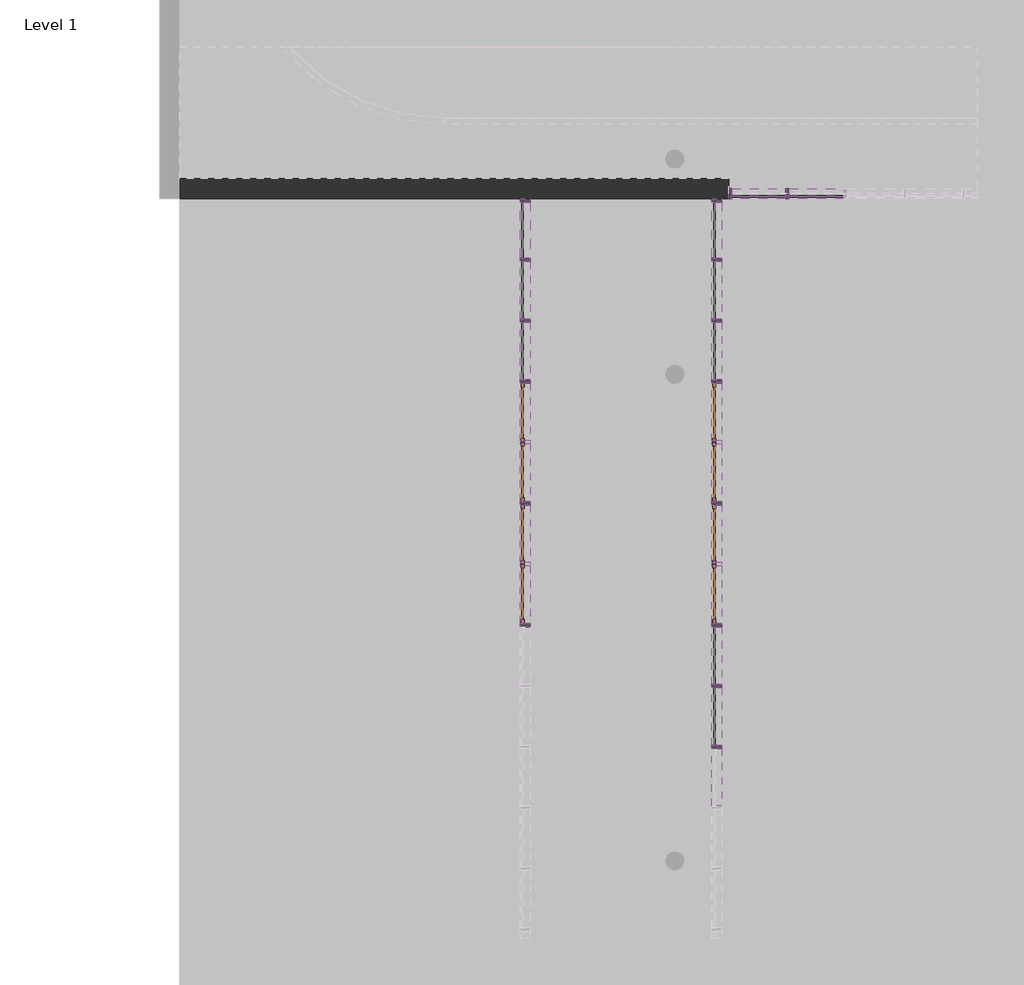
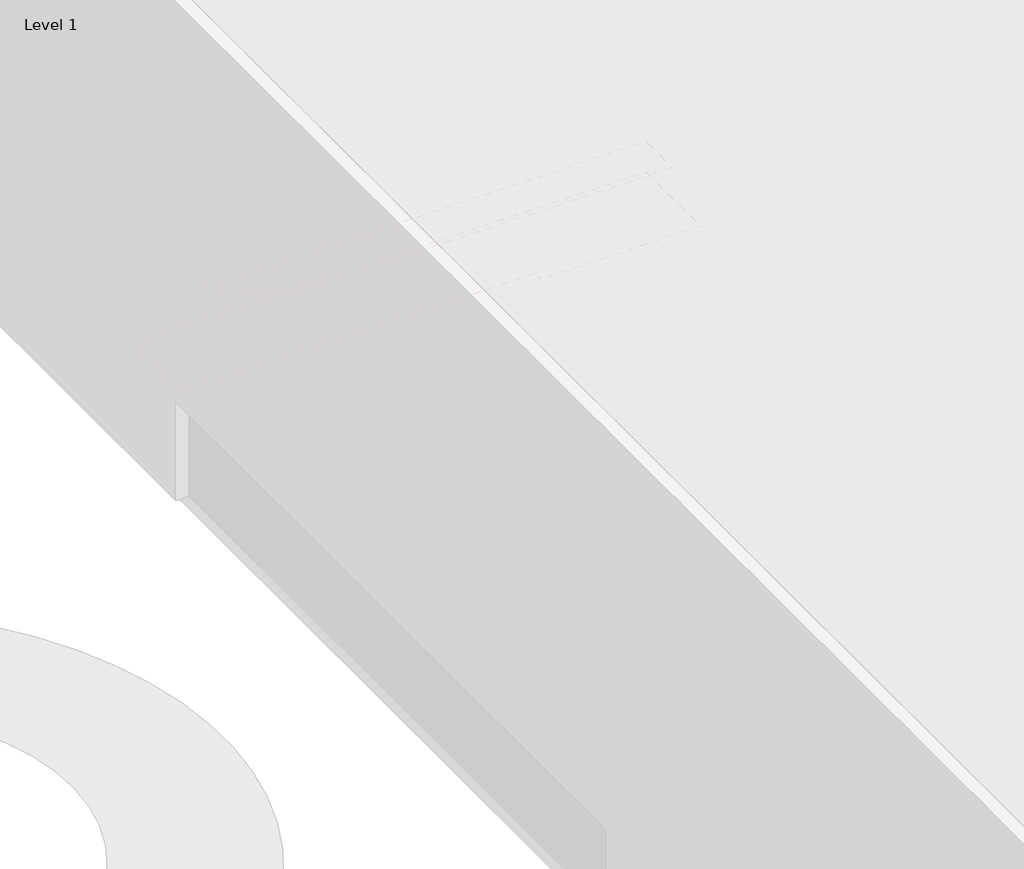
# One storey, part 11 of 18: 88 members, 28 plates, 4 doors, 1 wall.
"""IFC4 building model written with IfcOpenShell, lengths in millimetres."""

from ifc_helpers import new_model, si_unit, origin, place, context, project, spatial, faceted_brep, transform, mapped, element, save
from components import m_door_curtain_wall_double_storefront_m_door_curtain_wall_2970ffc3, rectangular_mullion_50mm_x_150mm_13593f2b, rectangular_mullion_50mm_x_150mm_0e57614d, rectangular_mullion_50mm_x_150mm_d8a63713, rectangular_mullion_50mm_x_150mm_a5e1a8f4, rectangular_mullion_50mm_x_150mm_caa46ae3, rectangular_mullion_50mm_x_150mm_eff96389, rectangular_mullion_50mm_x_150mm_2f4df0fd, rectangular_mullion_50mm_x_150mm_a28728bf, rectangular_mullion_50mm_x_150mm_22af440f, rectangular_mullion_50mm_x_150mm_0f59f38f, rectangular_mullion_50mm_x_150mm_3fa3ad65, rectangular_mullion_50mm_x_150mm_d427b131, rectangular_mullion_50mm_x_150mm_a376ce0f, rectangular_mullion_50mm_x_150mm_4471a7bc, rectangular_mullion_50mm_x_150mm_1cdaa0f1, system_panel_glazed_dff54dbd, system_panel_glazed_4aef0c34, system_panel_glazed_3f9df8c7, system_panel_glazed_45ebec01, system_panel_glazed_aa3f7126, system_panel_glazed_37b7c907, system_panel_glazed_7c3f78ea, system_panel_glazed_1f05e993

model = new_model("IFC4")

# Units and contexts
model_context = context("Model", 3, world=origin())
ifc_project = project(units=[si_unit("LENGTHUNIT", "METRE", prefix="MILLI")], contexts=[model_context])

# Site, building, storey
site = spatial("IfcSite", under=ifc_project)
building = spatial("IfcBuilding", under=site)
storey = spatial("IfcBuildingStorey", under=building, Name="Level 1", Elevation=0.0)

# Doors
placement = place(None, origin())
m_door_curtain_wall_double_storefront_m_door_curtain_wall_shape = m_door_curtain_wall_double_storefront_m_door_curtain_wall_2970ffc3(model_context)
element("IfcDoor", 1, ObjectType="M_Door-Curtain-Wall-Double-Storefront : M_Door-Curtain-Wall-Double-Storefront", at=placement, inside=storey, context=model_context, shape_type="MappedRepresentation", body=[
    mapped(m_door_curtain_wall_double_storefront_m_door_curtain_wall_shape, transform((-1903.8386635, 16994.8957697, 0.0), x_axis=(0.0, -1.0, 0.0), y_axis=(1.0, 0.0, 0.0), z_axis=(0.0, 0.0, 1.0))),
])
element("IfcDoor", 2, ObjectType="M_Door-Curtain-Wall-Double-Storefront : M_Door-Curtain-Wall-Double-Storefront", at=placement, inside=storey, context=model_context, shape_type="MappedRepresentation", body=[
    mapped(m_door_curtain_wall_double_storefront_m_door_curtain_wall_shape, transform((-1903.8386635, 18836.7905065, 0.0), x_axis=(0.0, -1.0, 0.0), y_axis=(1.0, 0.0, 0.0), z_axis=(0.0, 0.0, 1.0))),
])
element("IfcDoor", 3, ObjectType="M_Door-Curtain-Wall-Double-Storefront : M_Door-Curtain-Wall-Double-Storefront", at=placement, inside=storey, context=model_context, shape_type="MappedRepresentation", body=[
    mapped(m_door_curtain_wall_double_storefront_m_door_curtain_wall_shape, transform((-4803.8386635, 16994.8957697, 0.0), x_axis=(0.0, -1.0, 0.0), y_axis=(1.0, 0.0, 0.0), z_axis=(0.0, 0.0, 1.0))),
])
element("IfcDoor", 4, ObjectType="M_Door-Curtain-Wall-Double-Storefront : M_Door-Curtain-Wall-Double-Storefront", at=placement, inside=storey, context=model_context, shape_type="MappedRepresentation", body=[
    mapped(m_door_curtain_wall_double_storefront_m_door_curtain_wall_shape, transform((-4803.8386635, 18836.7905065, 0.0), x_axis=(0.0, -1.0, 0.0), y_axis=(1.0, 0.0, 0.0), z_axis=(0.0, 0.0, 1.0))),
])

# Members
rectangular_mullion_50mm_x_150mm_shape = rectangular_mullion_50mm_x_150mm_13593f2b(model_context)
element("IfcMember", 5, ObjectType="Rectangular Mullion : 50mm x 150mm", at=placement, inside=storey, context=model_context, shape_type="MappedRepresentation", body=[
    mapped(rectangular_mullion_50mm_x_150mm_shape, transform((-865.0805055, 22595.5799804, 0.0), x_axis=(0.0, 0.0, -1.0), y_axis=(0.0, 1.0, 0.0), z_axis=(1.0, 0.0, 0.0))),
])
element("IfcMember", 6, ObjectType="Rectangular Mullion : 50mm x 150mm", at=placement, inside=storey, context=model_context, shape_type="MappedRepresentation", body=[
    mapped(rectangular_mullion_50mm_x_150mm_shape, transform((-1678.8386635, 22595.5799804, 3550.0), x_axis=(0.0, 0.0, 1.0), y_axis=(0.0, 1.0, 0.0), z_axis=(-1.0, 0.0, 0.0))),
])
rectangular_mullion_50mm_x_150mm_2_shape = rectangular_mullion_50mm_x_150mm_0e57614d(model_context)
element("IfcMember", 7, ObjectType="Rectangular Mullion : 50mm x 150mm", at=placement, inside=storey, context=model_context, shape_type="MappedRepresentation", body=[
    mapped(rectangular_mullion_50mm_x_150mm_2_shape, transform((-815.0805055, 22595.5799804, 3550.0), x_axis=(0.0, 0.0, 1.0), y_axis=(0.0, 1.0, 0.0), z_axis=(-1.0, 0.0, 0.0))),
])
rectangular_mullion_50mm_x_150mm_3_shape = rectangular_mullion_50mm_x_150mm_d8a63713(model_context)
element("IfcMember", 8, ObjectType="Rectangular Mullion : 50mm x 150mm", at=placement, inside=storey, context=model_context, shape_type="MappedRepresentation", body=[
    mapped(rectangular_mullion_50mm_x_150mm_3_shape, transform((-840.0805055, 22595.5799804, 0.0), x_axis=(-1.0, 0.0, 0.0), y_axis=(0.0, 1.0, 0.0), z_axis=(0.0, 0.0, -1.0))),
])
rectangular_mullion_50mm_x_150mm_4_shape = rectangular_mullion_50mm_x_150mm_a5e1a8f4(model_context)
element("IfcMember", 9, ObjectType="Rectangular Mullion : 50mm x 150mm", at=placement, inside=storey, context=model_context, shape_type="MappedRepresentation", body=[
    mapped(rectangular_mullion_50mm_x_150mm_4_shape, transform((-1678.8386635, 22595.5799804, 2235.0), x_axis=(0.0, 0.0, 1.0), y_axis=(0.0, 1.0, 0.0), z_axis=(-1.0, 0.0, 0.0))),
])
element("IfcMember", 10, ObjectType="Rectangular Mullion : 50mm x 150mm", at=placement, inside=storey, context=model_context, shape_type="MappedRepresentation", body=[
    mapped(rectangular_mullion_50mm_x_150mm_4_shape, transform((-1678.8386635, 22595.5799804, 2135.0), x_axis=(0.0, 0.0, 1.0), y_axis=(0.0, 1.0, 0.0), z_axis=(-1.0, 0.0, 0.0))),
])
rectangular_mullion_50mm_x_150mm_5_shape = rectangular_mullion_50mm_x_150mm_caa46ae3(model_context)
element("IfcMember", 11, ObjectType="Rectangular Mullion : 50mm x 150mm", at=placement, inside=storey, context=model_context, shape_type="MappedRepresentation", body=[
    mapped(rectangular_mullion_50mm_x_150mm_5_shape, transform((-815.0805055, 22595.5799804, 2235.0), x_axis=(0.0, 0.0, 1.0), y_axis=(0.0, 1.0, 0.0), z_axis=(-1.0, 0.0, 0.0))),
])
element("IfcMember", 12, ObjectType="Rectangular Mullion : 50mm x 150mm", at=placement, inside=storey, context=model_context, shape_type="MappedRepresentation", body=[
    mapped(rectangular_mullion_50mm_x_150mm_5_shape, transform((-815.0805055, 22595.5799804, 2135.0), x_axis=(0.0, 0.0, 1.0), y_axis=(0.0, 1.0, 0.0), z_axis=(-1.0, 0.0, 0.0))),
])
rectangular_mullion_50mm_x_150mm_6_shape = rectangular_mullion_50mm_x_150mm_eff96389(model_context)
element("IfcMember", 13, ObjectType="Rectangular Mullion : 50mm x 150mm", at=placement, inside=storey, context=model_context, shape_type="MappedRepresentation", body=[
    mapped(rectangular_mullion_50mm_x_150mm_6_shape, transform((-840.0805055, 22595.5799804, 2235.0), x_axis=(-1.0, 0.0, 0.0), y_axis=(0.0, 1.0, 0.0), z_axis=(0.0, 0.0, -1.0))),
])
rectangular_mullion_50mm_x_150mm_7_shape = rectangular_mullion_50mm_x_150mm_2f4df0fd(model_context)
element("IfcMember", 14, ObjectType="Rectangular Mullion : 50mm x 150mm", at=placement, inside=storey, context=model_context, shape_type="MappedRepresentation", body=[
    mapped(rectangular_mullion_50mm_x_150mm_7_shape, transform((-1728.8386635, 22595.5799804, 2235.0), x_axis=(-1.0, 0.0, 0.0), y_axis=(0.0, 1.0, 0.0), z_axis=(0.0, 0.0, -1.0))),
])
rectangular_mullion_50mm_x_150mm_8_shape = rectangular_mullion_50mm_x_150mm_a28728bf(model_context)
element("IfcMember", 15, ObjectType="Rectangular Mullion : 50mm x 150mm", at=placement, inside=storey, context=model_context, shape_type="MappedRepresentation", body=[
    mapped(rectangular_mullion_50mm_x_150mm_8_shape, transform((-840.0805055, 22595.5799804, 2135.0), x_axis=(-1.0, 0.0, 0.0), y_axis=(0.0, 1.0, 0.0), z_axis=(0.0, 0.0, -1.0))),
])
rectangular_mullion_50mm_x_150mm_9_shape = rectangular_mullion_50mm_x_150mm_22af440f(model_context)
element("IfcMember", 16, ObjectType="Rectangular Mullion : 50mm x 150mm", at=placement, inside=storey, context=model_context, shape_type="MappedRepresentation", body=[
    mapped(rectangular_mullion_50mm_x_150mm_9_shape, transform((-1728.8386635, 22595.5799804, 0.0), x_axis=(-1.0, 0.0, 0.0), y_axis=(0.0, 1.0, 0.0), z_axis=(0.0, 0.0, -1.0))),
])
rectangular_mullion_50mm_x_150mm_10_shape = rectangular_mullion_50mm_x_150mm_0f59f38f(model_context)
element("IfcMember", 17, ObjectType="Rectangular Mullion : 50mm x 150mm", at=placement, inside=storey, context=model_context, shape_type="MappedRepresentation", body=[
    mapped(rectangular_mullion_50mm_x_150mm_10_shape, transform((-1728.8386635, 22595.5799804, 2135.0), x_axis=(-1.0, 0.0, 0.0), y_axis=(0.0, 1.0, 0.0), z_axis=(0.0, 0.0, -1.0))),
])
rectangular_mullion_50mm_x_150mm_11_shape = rectangular_mullion_50mm_x_150mm_3fa3ad65(model_context)
element("IfcMember", 18, ObjectType="Rectangular Mullion : 50mm x 150mm", at=placement, inside=storey, context=model_context, shape_type="MappedRepresentation", body=[
    mapped(rectangular_mullion_50mm_x_150mm_11_shape, transform((-1903.8386635, 21624.6326117, 3550.0), x_axis=(0.0, 0.0, 1.0), y_axis=(-1.0, 0.0, 0.0), z_axis=(0.0, -1.0, 0.0))),
])
element("IfcMember", 19, ObjectType="Rectangular Mullion : 50mm x 150mm", at=placement, inside=storey, context=model_context, shape_type="MappedRepresentation", body=[
    mapped(rectangular_mullion_50mm_x_150mm_11_shape, transform((-4803.8386635, 21624.6326117, 3550.0), x_axis=(0.0, 0.0, 1.0), y_axis=(-1.0, 0.0, 0.0), z_axis=(0.0, -1.0, 0.0))),
])
rectangular_mullion_50mm_x_150mm_12_shape = rectangular_mullion_50mm_x_150mm_d427b131(model_context)
element("IfcMember", 20, ObjectType="Rectangular Mullion : 50mm x 150mm", at=placement, inside=storey, context=model_context, shape_type="MappedRepresentation", body=[
    mapped(rectangular_mullion_50mm_x_150mm_12_shape, transform((-1903.8386635, 15178.001033, 3550.0), x_axis=(0.0, 0.0, 1.0), y_axis=(-1.0, 0.0, 0.0), z_axis=(0.0, -1.0, 0.0))),
])
element("IfcMember", 21, ObjectType="Rectangular Mullion : 50mm x 150mm", at=placement, inside=storey, context=model_context, shape_type="MappedRepresentation", body=[
    mapped(rectangular_mullion_50mm_x_150mm_12_shape, transform((-1903.8386635, 14257.0536646, 3550.0), x_axis=(0.0, 0.0, 1.0), y_axis=(-1.0, 0.0, 0.0), z_axis=(0.0, -1.0, 0.0))),
])
element("IfcMember", 22, ObjectType="Rectangular Mullion : 50mm x 150mm", at=placement, inside=storey, context=model_context, shape_type="MappedRepresentation", body=[
    mapped(rectangular_mullion_50mm_x_150mm_12_shape, transform((-1903.8386635, 16098.9484014, 3550.0), x_axis=(0.0, 0.0, 1.0), y_axis=(-1.0, 0.0, 0.0), z_axis=(0.0, -1.0, 0.0))),
])
element("IfcMember", 23, ObjectType="Rectangular Mullion : 50mm x 150mm", at=placement, inside=storey, context=model_context, shape_type="MappedRepresentation", body=[
    mapped(rectangular_mullion_50mm_x_150mm_12_shape, transform((-1903.8386635, 17019.8957697, 3550.0), x_axis=(0.0, 0.0, 1.0), y_axis=(-1.0, 0.0, 0.0), z_axis=(0.0, -1.0, 0.0))),
])
element("IfcMember", 24, ObjectType="Rectangular Mullion : 50mm x 150mm", at=placement, inside=storey, context=model_context, shape_type="MappedRepresentation", body=[
    mapped(rectangular_mullion_50mm_x_150mm_12_shape, transform((-1903.8386635, 17940.8431381, 3550.0), x_axis=(0.0, 0.0, 1.0), y_axis=(-1.0, 0.0, 0.0), z_axis=(0.0, -1.0, 0.0))),
])
element("IfcMember", 25, ObjectType="Rectangular Mullion : 50mm x 150mm", at=placement, inside=storey, context=model_context, shape_type="MappedRepresentation", body=[
    mapped(rectangular_mullion_50mm_x_150mm_12_shape, transform((-1903.8386635, 18861.7905065, 3550.0), x_axis=(0.0, 0.0, 1.0), y_axis=(-1.0, 0.0, 0.0), z_axis=(0.0, -1.0, 0.0))),
])
element("IfcMember", 26, ObjectType="Rectangular Mullion : 50mm x 150mm", at=placement, inside=storey, context=model_context, shape_type="MappedRepresentation", body=[
    mapped(rectangular_mullion_50mm_x_150mm_12_shape, transform((-1903.8386635, 19782.7378749, 3550.0), x_axis=(0.0, 0.0, 1.0), y_axis=(-1.0, 0.0, 0.0), z_axis=(0.0, -1.0, 0.0))),
])
element("IfcMember", 27, ObjectType="Rectangular Mullion : 50mm x 150mm", at=placement, inside=storey, context=model_context, shape_type="MappedRepresentation", body=[
    mapped(rectangular_mullion_50mm_x_150mm_12_shape, transform((-1903.8386635, 20703.6852433, 3550.0), x_axis=(0.0, 0.0, 1.0), y_axis=(-1.0, 0.0, 0.0), z_axis=(0.0, -1.0, 0.0))),
])
element("IfcMember", 28, ObjectType="Rectangular Mullion : 50mm x 150mm", at=placement, inside=storey, context=model_context, shape_type="MappedRepresentation", body=[
    mapped(rectangular_mullion_50mm_x_150mm_12_shape, transform((-4803.8386635, 16098.9484014, 3550.0), x_axis=(0.0, 0.0, 1.0), y_axis=(-1.0, 0.0, 0.0), z_axis=(0.0, -1.0, 0.0))),
])
element("IfcMember", 29, ObjectType="Rectangular Mullion : 50mm x 150mm", at=placement, inside=storey, context=model_context, shape_type="MappedRepresentation", body=[
    mapped(rectangular_mullion_50mm_x_150mm_12_shape, transform((-4803.8386635, 17019.8957697, 3550.0), x_axis=(0.0, 0.0, 1.0), y_axis=(-1.0, 0.0, 0.0), z_axis=(0.0, -1.0, 0.0))),
])
element("IfcMember", 30, ObjectType="Rectangular Mullion : 50mm x 150mm", at=placement, inside=storey, context=model_context, shape_type="MappedRepresentation", body=[
    mapped(rectangular_mullion_50mm_x_150mm_12_shape, transform((-4803.8386635, 17940.8431381, 3550.0), x_axis=(0.0, 0.0, 1.0), y_axis=(-1.0, 0.0, 0.0), z_axis=(0.0, -1.0, 0.0))),
])
element("IfcMember", 31, ObjectType="Rectangular Mullion : 50mm x 150mm", at=placement, inside=storey, context=model_context, shape_type="MappedRepresentation", body=[
    mapped(rectangular_mullion_50mm_x_150mm_12_shape, transform((-4803.8386635, 18861.7905065, 3550.0), x_axis=(0.0, 0.0, 1.0), y_axis=(-1.0, 0.0, 0.0), z_axis=(0.0, -1.0, 0.0))),
])
element("IfcMember", 32, ObjectType="Rectangular Mullion : 50mm x 150mm", at=placement, inside=storey, context=model_context, shape_type="MappedRepresentation", body=[
    mapped(rectangular_mullion_50mm_x_150mm_12_shape, transform((-4803.8386635, 19782.7378749, 3550.0), x_axis=(0.0, 0.0, 1.0), y_axis=(-1.0, 0.0, 0.0), z_axis=(0.0, -1.0, 0.0))),
])
element("IfcMember", 33, ObjectType="Rectangular Mullion : 50mm x 150mm", at=placement, inside=storey, context=model_context, shape_type="MappedRepresentation", body=[
    mapped(rectangular_mullion_50mm_x_150mm_12_shape, transform((-4803.8386635, 20703.6852433, 3550.0), x_axis=(0.0, 0.0, 1.0), y_axis=(-1.0, 0.0, 0.0), z_axis=(0.0, -1.0, 0.0))),
])
element("IfcMember", 34, ObjectType="Rectangular Mullion : 50mm x 150mm", at=placement, inside=storey, context=model_context, shape_type="MappedRepresentation", body=[
    mapped(rectangular_mullion_50mm_x_150mm_12_shape, transform((-1903.8386635, 15128.001033, 0.0), x_axis=(0.0, 0.0, -1.0), y_axis=(-1.0, 0.0, 0.0), z_axis=(0.0, 1.0, 0.0))),
])
element("IfcMember", 35, ObjectType="Rectangular Mullion : 50mm x 150mm", at=placement, inside=storey, context=model_context, shape_type="MappedRepresentation", body=[
    mapped(rectangular_mullion_50mm_x_150mm_12_shape, transform((-1903.8386635, 14207.0536646, 0.0), x_axis=(0.0, 0.0, -1.0), y_axis=(-1.0, 0.0, 0.0), z_axis=(0.0, 1.0, 0.0))),
])
element("IfcMember", 36, ObjectType="Rectangular Mullion : 50mm x 150mm", at=placement, inside=storey, context=model_context, shape_type="MappedRepresentation", body=[
    mapped(rectangular_mullion_50mm_x_150mm_12_shape, transform((-1903.8386635, 21574.6326117, 0.0), x_axis=(0.0, 0.0, -1.0), y_axis=(-1.0, 0.0, 0.0), z_axis=(0.0, 1.0, 0.0))),
])
element("IfcMember", 37, ObjectType="Rectangular Mullion : 50mm x 150mm", at=placement, inside=storey, context=model_context, shape_type="MappedRepresentation", body=[
    mapped(rectangular_mullion_50mm_x_150mm_12_shape, transform((-1903.8386635, 20653.6852433, 0.0), x_axis=(0.0, 0.0, -1.0), y_axis=(-1.0, 0.0, 0.0), z_axis=(0.0, 1.0, 0.0))),
])
element("IfcMember", 38, ObjectType="Rectangular Mullion : 50mm x 150mm", at=placement, inside=storey, context=model_context, shape_type="MappedRepresentation", body=[
    mapped(rectangular_mullion_50mm_x_150mm_12_shape, transform((-1903.8386635, 16048.9484014, 0.0), x_axis=(0.0, 0.0, -1.0), y_axis=(-1.0, 0.0, 0.0), z_axis=(0.0, 1.0, 0.0))),
])
element("IfcMember", 39, ObjectType="Rectangular Mullion : 50mm x 150mm", at=placement, inside=storey, context=model_context, shape_type="MappedRepresentation", body=[
    mapped(rectangular_mullion_50mm_x_150mm_12_shape, transform((-4803.8386635, 21574.6326117, 0.0), x_axis=(0.0, 0.0, -1.0), y_axis=(-1.0, 0.0, 0.0), z_axis=(0.0, 1.0, 0.0))),
])
element("IfcMember", 40, ObjectType="Rectangular Mullion : 50mm x 150mm", at=placement, inside=storey, context=model_context, shape_type="MappedRepresentation", body=[
    mapped(rectangular_mullion_50mm_x_150mm_12_shape, transform((-4803.8386635, 20653.6852433, 0.0), x_axis=(0.0, 0.0, -1.0), y_axis=(-1.0, 0.0, 0.0), z_axis=(0.0, 1.0, 0.0))),
])
element("IfcMember", 41, ObjectType="Rectangular Mullion : 50mm x 150mm", at=placement, inside=storey, context=model_context, shape_type="MappedRepresentation", body=[
    mapped(rectangular_mullion_50mm_x_150mm_12_shape, transform((-4803.8386635, 16048.9484014, 0.0), x_axis=(0.0, 0.0, -1.0), y_axis=(-1.0, 0.0, 0.0), z_axis=(0.0, 1.0, 0.0))),
])
element("IfcMember", 42, ObjectType="Rectangular Mullion : 50mm x 150mm", at=placement, inside=storey, context=model_context, shape_type="MappedRepresentation", body=[
    mapped(rectangular_mullion_50mm_x_150mm_11_shape, transform((-1903.8386635, 22470.5799804, 0.0), x_axis=(0.0, 0.0, -1.0), y_axis=(-1.0, 0.0, 0.0), z_axis=(0.0, 1.0, 0.0))),
])
element("IfcMember", 43, ObjectType="Rectangular Mullion : 50mm x 150mm", at=placement, inside=storey, context=model_context, shape_type="MappedRepresentation", body=[
    mapped(rectangular_mullion_50mm_x_150mm_11_shape, transform((-4803.8386635, 22470.5799804, 0.0), x_axis=(0.0, 0.0, -1.0), y_axis=(-1.0, 0.0, 0.0), z_axis=(0.0, 1.0, 0.0))),
])
element("IfcMember", 44, ObjectType="Rectangular Mullion : 50mm x 150mm", at=placement, inside=storey, context=model_context, shape_type="MappedRepresentation", body=[
    mapped(rectangular_mullion_50mm_x_150mm_3_shape, transform((-1903.8386635, 15153.001033, 0.0), x_axis=(0.0, -1.0, 0.0), y_axis=(-1.0, 0.0, 0.0), z_axis=(0.0, 0.0, -1.0))),
])
element("IfcMember", 45, ObjectType="Rectangular Mullion : 50mm x 150mm", at=placement, inside=storey, context=model_context, shape_type="MappedRepresentation", body=[
    mapped(rectangular_mullion_50mm_x_150mm_3_shape, transform((-1903.8386635, 14232.0536646, 0.0), x_axis=(0.0, -1.0, 0.0), y_axis=(-1.0, 0.0, 0.0), z_axis=(0.0, 0.0, -1.0))),
])
element("IfcMember", 46, ObjectType="Rectangular Mullion : 50mm x 150mm", at=placement, inside=storey, context=model_context, shape_type="MappedRepresentation", body=[
    mapped(rectangular_mullion_50mm_x_150mm_3_shape, transform((-1903.8386635, 16073.9484014, 0.0), x_axis=(0.0, -1.0, 0.0), y_axis=(-1.0, 0.0, 0.0), z_axis=(0.0, 0.0, -1.0))),
])
element("IfcMember", 47, ObjectType="Rectangular Mullion : 50mm x 150mm", at=placement, inside=storey, context=model_context, shape_type="MappedRepresentation", body=[
    mapped(rectangular_mullion_50mm_x_150mm_3_shape, transform((-1903.8386635, 19757.7378749, 0.0), x_axis=(0.0, -1.0, 0.0), y_axis=(-1.0, 0.0, 0.0), z_axis=(0.0, 0.0, -1.0))),
])
element("IfcMember", 48, ObjectType="Rectangular Mullion : 50mm x 150mm", at=placement, inside=storey, context=model_context, shape_type="MappedRepresentation", body=[
    mapped(rectangular_mullion_50mm_x_150mm_3_shape, transform((-1903.8386635, 20678.6852433, 0.0), x_axis=(0.0, -1.0, 0.0), y_axis=(-1.0, 0.0, 0.0), z_axis=(0.0, 0.0, -1.0))),
])
element("IfcMember", 49, ObjectType="Rectangular Mullion : 50mm x 150mm", at=placement, inside=storey, context=model_context, shape_type="MappedRepresentation", body=[
    mapped(rectangular_mullion_50mm_x_150mm_3_shape, transform((-1903.8386635, 21599.6326117, 0.0), x_axis=(0.0, -1.0, 0.0), y_axis=(-1.0, 0.0, 0.0), z_axis=(0.0, 0.0, -1.0))),
])
element("IfcMember", 50, ObjectType="Rectangular Mullion : 50mm x 150mm", at=placement, inside=storey, context=model_context, shape_type="MappedRepresentation", body=[
    mapped(rectangular_mullion_50mm_x_150mm_3_shape, transform((-4803.8386635, 16073.9484014, 0.0), x_axis=(0.0, -1.0, 0.0), y_axis=(-1.0, 0.0, 0.0), z_axis=(0.0, 0.0, -1.0))),
])
element("IfcMember", 51, ObjectType="Rectangular Mullion : 50mm x 150mm", at=placement, inside=storey, context=model_context, shape_type="MappedRepresentation", body=[
    mapped(rectangular_mullion_50mm_x_150mm_3_shape, transform((-4803.8386635, 19757.7378749, 0.0), x_axis=(0.0, -1.0, 0.0), y_axis=(-1.0, 0.0, 0.0), z_axis=(0.0, 0.0, -1.0))),
])
element("IfcMember", 52, ObjectType="Rectangular Mullion : 50mm x 150mm", at=placement, inside=storey, context=model_context, shape_type="MappedRepresentation", body=[
    mapped(rectangular_mullion_50mm_x_150mm_3_shape, transform((-4803.8386635, 20678.6852433, 0.0), x_axis=(0.0, -1.0, 0.0), y_axis=(-1.0, 0.0, 0.0), z_axis=(0.0, 0.0, -1.0))),
])
element("IfcMember", 53, ObjectType="Rectangular Mullion : 50mm x 150mm", at=placement, inside=storey, context=model_context, shape_type="MappedRepresentation", body=[
    mapped(rectangular_mullion_50mm_x_150mm_3_shape, transform((-4803.8386635, 21599.6326117, 0.0), x_axis=(0.0, -1.0, 0.0), y_axis=(-1.0, 0.0, 0.0), z_axis=(0.0, 0.0, -1.0))),
])
element("IfcMember", 54, ObjectType="Rectangular Mullion : 50mm x 150mm", at=placement, inside=storey, context=model_context, shape_type="MappedRepresentation", body=[
    mapped(rectangular_mullion_50mm_x_150mm_8_shape, transform((-1903.8386635, 15153.001033, 2135.0), x_axis=(0.0, -1.0, 0.0), y_axis=(-1.0, 0.0, 0.0), z_axis=(0.0, 0.0, -1.0))),
])
element("IfcMember", 55, ObjectType="Rectangular Mullion : 50mm x 150mm", at=placement, inside=storey, context=model_context, shape_type="MappedRepresentation", body=[
    mapped(rectangular_mullion_50mm_x_150mm_8_shape, transform((-1903.8386635, 14232.0536646, 2135.0), x_axis=(0.0, -1.0, 0.0), y_axis=(-1.0, 0.0, 0.0), z_axis=(0.0, 0.0, -1.0))),
])
element("IfcMember", 56, ObjectType="Rectangular Mullion : 50mm x 150mm", at=placement, inside=storey, context=model_context, shape_type="MappedRepresentation", body=[
    mapped(rectangular_mullion_50mm_x_150mm_8_shape, transform((-1903.8386635, 16073.9484014, 2135.0), x_axis=(0.0, -1.0, 0.0), y_axis=(-1.0, 0.0, 0.0), z_axis=(0.0, 0.0, -1.0))),
])
element("IfcMember", 57, ObjectType="Rectangular Mullion : 50mm x 150mm", at=placement, inside=storey, context=model_context, shape_type="MappedRepresentation", body=[
    mapped(rectangular_mullion_50mm_x_150mm_8_shape, transform((-1903.8386635, 17915.8431381, 2135.0), x_axis=(0.0, -1.0, 0.0), y_axis=(-1.0, 0.0, 0.0), z_axis=(0.0, 0.0, -1.0))),
])
element("IfcMember", 58, ObjectType="Rectangular Mullion : 50mm x 150mm", at=placement, inside=storey, context=model_context, shape_type="MappedRepresentation", body=[
    mapped(rectangular_mullion_50mm_x_150mm_8_shape, transform((-1903.8386635, 19757.7378749, 2135.0), x_axis=(0.0, -1.0, 0.0), y_axis=(-1.0, 0.0, 0.0), z_axis=(0.0, 0.0, -1.0))),
])
element("IfcMember", 59, ObjectType="Rectangular Mullion : 50mm x 150mm", at=placement, inside=storey, context=model_context, shape_type="MappedRepresentation", body=[
    mapped(rectangular_mullion_50mm_x_150mm_8_shape, transform((-1903.8386635, 20678.6852433, 2135.0), x_axis=(0.0, -1.0, 0.0), y_axis=(-1.0, 0.0, 0.0), z_axis=(0.0, 0.0, -1.0))),
])
element("IfcMember", 60, ObjectType="Rectangular Mullion : 50mm x 150mm", at=placement, inside=storey, context=model_context, shape_type="MappedRepresentation", body=[
    mapped(rectangular_mullion_50mm_x_150mm_8_shape, transform((-1903.8386635, 21599.6326117, 2135.0), x_axis=(0.0, -1.0, 0.0), y_axis=(-1.0, 0.0, 0.0), z_axis=(0.0, 0.0, -1.0))),
])
element("IfcMember", 61, ObjectType="Rectangular Mullion : 50mm x 150mm", at=placement, inside=storey, context=model_context, shape_type="MappedRepresentation", body=[
    mapped(rectangular_mullion_50mm_x_150mm_8_shape, transform((-4803.8386635, 16073.9484014, 2135.0), x_axis=(0.0, -1.0, 0.0), y_axis=(-1.0, 0.0, 0.0), z_axis=(0.0, 0.0, -1.0))),
])
element("IfcMember", 62, ObjectType="Rectangular Mullion : 50mm x 150mm", at=placement, inside=storey, context=model_context, shape_type="MappedRepresentation", body=[
    mapped(rectangular_mullion_50mm_x_150mm_8_shape, transform((-4803.8386635, 17915.8431381, 2135.0), x_axis=(0.0, -1.0, 0.0), y_axis=(-1.0, 0.0, 0.0), z_axis=(0.0, 0.0, -1.0))),
])
element("IfcMember", 63, ObjectType="Rectangular Mullion : 50mm x 150mm", at=placement, inside=storey, context=model_context, shape_type="MappedRepresentation", body=[
    mapped(rectangular_mullion_50mm_x_150mm_8_shape, transform((-4803.8386635, 19757.7378749, 2135.0), x_axis=(0.0, -1.0, 0.0), y_axis=(-1.0, 0.0, 0.0), z_axis=(0.0, 0.0, -1.0))),
])
element("IfcMember", 64, ObjectType="Rectangular Mullion : 50mm x 150mm", at=placement, inside=storey, context=model_context, shape_type="MappedRepresentation", body=[
    mapped(rectangular_mullion_50mm_x_150mm_8_shape, transform((-4803.8386635, 20678.6852433, 2135.0), x_axis=(0.0, -1.0, 0.0), y_axis=(-1.0, 0.0, 0.0), z_axis=(0.0, 0.0, -1.0))),
])
element("IfcMember", 65, ObjectType="Rectangular Mullion : 50mm x 150mm", at=placement, inside=storey, context=model_context, shape_type="MappedRepresentation", body=[
    mapped(rectangular_mullion_50mm_x_150mm_8_shape, transform((-4803.8386635, 21599.6326117, 2135.0), x_axis=(0.0, -1.0, 0.0), y_axis=(-1.0, 0.0, 0.0), z_axis=(0.0, 0.0, -1.0))),
])
rectangular_mullion_50mm_x_150mm_13_shape = rectangular_mullion_50mm_x_150mm_a376ce0f(model_context)
element("IfcMember", 66, ObjectType="Rectangular Mullion : 50mm x 150mm", at=placement, inside=storey, context=model_context, shape_type="MappedRepresentation", body=[
    mapped(rectangular_mullion_50mm_x_150mm_13_shape, transform((-1903.8386635, 21624.6326117, 2135.0), x_axis=(0.0, 0.0, 1.0), y_axis=(-1.0, 0.0, 0.0), z_axis=(0.0, -1.0, 0.0))),
])
element("IfcMember", 67, ObjectType="Rectangular Mullion : 50mm x 150mm", at=placement, inside=storey, context=model_context, shape_type="MappedRepresentation", body=[
    mapped(rectangular_mullion_50mm_x_150mm_13_shape, transform((-4803.8386635, 21624.6326117, 2135.0), x_axis=(0.0, 0.0, 1.0), y_axis=(-1.0, 0.0, 0.0), z_axis=(0.0, -1.0, 0.0))),
])
rectangular_mullion_50mm_x_150mm_14_shape = rectangular_mullion_50mm_x_150mm_4471a7bc(model_context)
element("IfcMember", 68, ObjectType="Rectangular Mullion : 50mm x 150mm", at=placement, inside=storey, context=model_context, shape_type="MappedRepresentation", body=[
    mapped(rectangular_mullion_50mm_x_150mm_14_shape, transform((-1903.8386635, 20703.6852433, 2135.0), x_axis=(0.0, 0.0, 1.0), y_axis=(-1.0, 0.0, 0.0), z_axis=(0.0, -1.0, 0.0))),
])
element("IfcMember", 69, ObjectType="Rectangular Mullion : 50mm x 150mm", at=placement, inside=storey, context=model_context, shape_type="MappedRepresentation", body=[
    mapped(rectangular_mullion_50mm_x_150mm_14_shape, transform((-1903.8386635, 19782.7378749, 2135.0), x_axis=(0.0, 0.0, 1.0), y_axis=(-1.0, 0.0, 0.0), z_axis=(0.0, -1.0, 0.0))),
])
element("IfcMember", 70, ObjectType="Rectangular Mullion : 50mm x 150mm", at=placement, inside=storey, context=model_context, shape_type="MappedRepresentation", body=[
    mapped(rectangular_mullion_50mm_x_150mm_14_shape, transform((-1903.8386635, 18861.7905065, 2135.0), x_axis=(0.0, 0.0, 1.0), y_axis=(-1.0, 0.0, 0.0), z_axis=(0.0, -1.0, 0.0))),
])
element("IfcMember", 71, ObjectType="Rectangular Mullion : 50mm x 150mm", at=placement, inside=storey, context=model_context, shape_type="MappedRepresentation", body=[
    mapped(rectangular_mullion_50mm_x_150mm_14_shape, transform((-1903.8386635, 17940.8431381, 2135.0), x_axis=(0.0, 0.0, 1.0), y_axis=(-1.0, 0.0, 0.0), z_axis=(0.0, -1.0, 0.0))),
])
element("IfcMember", 72, ObjectType="Rectangular Mullion : 50mm x 150mm", at=placement, inside=storey, context=model_context, shape_type="MappedRepresentation", body=[
    mapped(rectangular_mullion_50mm_x_150mm_14_shape, transform((-1903.8386635, 17019.8957697, 2135.0), x_axis=(0.0, 0.0, 1.0), y_axis=(-1.0, 0.0, 0.0), z_axis=(0.0, -1.0, 0.0))),
])
element("IfcMember", 73, ObjectType="Rectangular Mullion : 50mm x 150mm", at=placement, inside=storey, context=model_context, shape_type="MappedRepresentation", body=[
    mapped(rectangular_mullion_50mm_x_150mm_14_shape, transform((-1903.8386635, 16098.9484014, 2135.0), x_axis=(0.0, 0.0, 1.0), y_axis=(-1.0, 0.0, 0.0), z_axis=(0.0, -1.0, 0.0))),
])
element("IfcMember", 74, ObjectType="Rectangular Mullion : 50mm x 150mm", at=placement, inside=storey, context=model_context, shape_type="MappedRepresentation", body=[
    mapped(rectangular_mullion_50mm_x_150mm_14_shape, transform((-1903.8386635, 15178.001033, 2135.0), x_axis=(0.0, 0.0, 1.0), y_axis=(-1.0, 0.0, 0.0), z_axis=(0.0, -1.0, 0.0))),
])
element("IfcMember", 75, ObjectType="Rectangular Mullion : 50mm x 150mm", at=placement, inside=storey, context=model_context, shape_type="MappedRepresentation", body=[
    mapped(rectangular_mullion_50mm_x_150mm_14_shape, transform((-1903.8386635, 14257.0536646, 2135.0), x_axis=(0.0, 0.0, 1.0), y_axis=(-1.0, 0.0, 0.0), z_axis=(0.0, -1.0, 0.0))),
])
element("IfcMember", 76, ObjectType="Rectangular Mullion : 50mm x 150mm", at=placement, inside=storey, context=model_context, shape_type="MappedRepresentation", body=[
    mapped(rectangular_mullion_50mm_x_150mm_14_shape, transform((-1903.8386635, 13336.1062962, 2135.0), x_axis=(0.0, 0.0, 1.0), y_axis=(-1.0, 0.0, 0.0), z_axis=(0.0, -1.0, 0.0))),
])
element("IfcMember", 77, ObjectType="Rectangular Mullion : 50mm x 150mm", at=placement, inside=storey, context=model_context, shape_type="MappedRepresentation", body=[
    mapped(rectangular_mullion_50mm_x_150mm_14_shape, transform((-4803.8386635, 20703.6852433, 2135.0), x_axis=(0.0, 0.0, 1.0), y_axis=(-1.0, 0.0, 0.0), z_axis=(0.0, -1.0, 0.0))),
])
element("IfcMember", 78, ObjectType="Rectangular Mullion : 50mm x 150mm", at=placement, inside=storey, context=model_context, shape_type="MappedRepresentation", body=[
    mapped(rectangular_mullion_50mm_x_150mm_14_shape, transform((-4803.8386635, 19782.7378749, 2135.0), x_axis=(0.0, 0.0, 1.0), y_axis=(-1.0, 0.0, 0.0), z_axis=(0.0, -1.0, 0.0))),
])
element("IfcMember", 79, ObjectType="Rectangular Mullion : 50mm x 150mm", at=placement, inside=storey, context=model_context, shape_type="MappedRepresentation", body=[
    mapped(rectangular_mullion_50mm_x_150mm_14_shape, transform((-4803.8386635, 18861.7905065, 2135.0), x_axis=(0.0, 0.0, 1.0), y_axis=(-1.0, 0.0, 0.0), z_axis=(0.0, -1.0, 0.0))),
])
element("IfcMember", 80, ObjectType="Rectangular Mullion : 50mm x 150mm", at=placement, inside=storey, context=model_context, shape_type="MappedRepresentation", body=[
    mapped(rectangular_mullion_50mm_x_150mm_14_shape, transform((-4803.8386635, 17940.8431381, 2135.0), x_axis=(0.0, 0.0, 1.0), y_axis=(-1.0, 0.0, 0.0), z_axis=(0.0, -1.0, 0.0))),
])
element("IfcMember", 81, ObjectType="Rectangular Mullion : 50mm x 150mm", at=placement, inside=storey, context=model_context, shape_type="MappedRepresentation", body=[
    mapped(rectangular_mullion_50mm_x_150mm_14_shape, transform((-4803.8386635, 17019.8957697, 2135.0), x_axis=(0.0, 0.0, 1.0), y_axis=(-1.0, 0.0, 0.0), z_axis=(0.0, -1.0, 0.0))),
])
element("IfcMember", 82, ObjectType="Rectangular Mullion : 50mm x 150mm", at=placement, inside=storey, context=model_context, shape_type="MappedRepresentation", body=[
    mapped(rectangular_mullion_50mm_x_150mm_14_shape, transform((-4803.8386635, 16098.9484014, 2135.0), x_axis=(0.0, 0.0, 1.0), y_axis=(-1.0, 0.0, 0.0), z_axis=(0.0, -1.0, 0.0))),
])
element("IfcMember", 83, ObjectType="Rectangular Mullion : 50mm x 150mm", at=placement, inside=storey, context=model_context, shape_type="MappedRepresentation", body=[
    mapped(rectangular_mullion_50mm_x_150mm_10_shape, transform((-1903.8386635, 22520.5799804, 3550.0), x_axis=(0.0, 1.0, 0.0), y_axis=(-1.0, 0.0, 0.0), z_axis=(0.0, 0.0, 1.0))),
])
element("IfcMember", 84, ObjectType="Rectangular Mullion : 50mm x 150mm", at=placement, inside=storey, context=model_context, shape_type="MappedRepresentation", body=[
    mapped(rectangular_mullion_50mm_x_150mm_10_shape, transform((-4803.8386635, 22520.5799804, 3550.0), x_axis=(0.0, 1.0, 0.0), y_axis=(-1.0, 0.0, 0.0), z_axis=(0.0, 0.0, 1.0))),
])
element("IfcMember", 85, ObjectType="Rectangular Mullion : 50mm x 150mm", at=placement, inside=storey, context=model_context, shape_type="MappedRepresentation", body=[
    mapped(rectangular_mullion_50mm_x_150mm_9_shape, transform((-1903.8386635, 22520.5799804, 2135.0), x_axis=(0.0, 1.0, 0.0), y_axis=(-1.0, 0.0, 0.0), z_axis=(0.0, 0.0, 1.0))),
])
element("IfcMember", 86, ObjectType="Rectangular Mullion : 50mm x 150mm", at=placement, inside=storey, context=model_context, shape_type="MappedRepresentation", body=[
    mapped(rectangular_mullion_50mm_x_150mm_9_shape, transform((-4803.8386635, 22520.5799804, 2135.0), x_axis=(0.0, 1.0, 0.0), y_axis=(-1.0, 0.0, 0.0), z_axis=(0.0, 0.0, 1.0))),
])
rectangular_mullion_50mm_x_150mm_15_shape = rectangular_mullion_50mm_x_150mm_1cdaa0f1(model_context)
element("IfcMember", 87, ObjectType="Rectangular Mullion : 50mm x 150mm", at=placement, inside=storey, context=model_context, shape_type="MappedRepresentation", body=[
    mapped(rectangular_mullion_50mm_x_150mm_15_shape, transform((-1903.8386635, 16994.8957697, 2110.0), x_axis=(0.0, -1.0, 0.0), y_axis=(-1.0, 0.0, 0.0), z_axis=(0.0, 0.0, -1.0))),
])
element("IfcMember", 88, ObjectType="Rectangular Mullion : 50mm x 150mm", at=placement, inside=storey, context=model_context, shape_type="MappedRepresentation", body=[
    mapped(rectangular_mullion_50mm_x_150mm_15_shape, transform((-1903.8386635, 18836.7905065, 2110.0), x_axis=(0.0, -1.0, 0.0), y_axis=(-1.0, 0.0, 0.0), z_axis=(0.0, 0.0, -1.0))),
])
element("IfcMember", 89, ObjectType="Rectangular Mullion : 50mm x 150mm", at=placement, inside=storey, context=model_context, shape_type="MappedRepresentation", body=[
    mapped(rectangular_mullion_50mm_x_150mm_15_shape, transform((-4803.8386635, 16994.8957697, 2110.0), x_axis=(0.0, -1.0, 0.0), y_axis=(-1.0, 0.0, 0.0), z_axis=(0.0, 0.0, -1.0))),
])
element("IfcMember", 90, ObjectType="Rectangular Mullion : 50mm x 150mm", at=placement, inside=storey, context=model_context, shape_type="MappedRepresentation", body=[
    mapped(rectangular_mullion_50mm_x_150mm_15_shape, transform((-4803.8386635, 18836.7905065, 2110.0), x_axis=(0.0, -1.0, 0.0), y_axis=(-1.0, 0.0, 0.0), z_axis=(0.0, 0.0, -1.0))),
])
element("IfcMember", 91, ObjectType="Rectangular Mullion : 50mm x 150mm", at=placement, inside=storey, context=model_context, shape_type="MappedRepresentation", body=[
    mapped(rectangular_mullion_50mm_x_150mm_3_shape, transform((-1903.8386635, 17915.8431381, 0.0), x_axis=(0.0, -1.0, 0.0), y_axis=(-1.0, 0.0, 0.0), z_axis=(0.0, 0.0, -1.0))),
])
element("IfcMember", 92, ObjectType="Rectangular Mullion : 50mm x 150mm", at=placement, inside=storey, context=model_context, shape_type="MappedRepresentation", body=[
    mapped(rectangular_mullion_50mm_x_150mm_3_shape, transform((-4803.8386635, 17915.8431381, 0.0), x_axis=(0.0, -1.0, 0.0), y_axis=(-1.0, 0.0, 0.0), z_axis=(0.0, 0.0, -1.0))),
])

# Plates
system_panel_glazed_shape = system_panel_glazed_dff54dbd(model_context)
element("IfcPlate", 93, ObjectType="System Panel : Glazed", at=placement, inside=storey, context=model_context, shape_type="MappedRepresentation", body=[
    mapped(system_panel_glazed_shape, transform((-1271.9595845, 22595.5799804, 50.0), x_axis=(-1.0, 0.0, 0.0), y_axis=(0.0, -1.0, 0.0), z_axis=(0.0, 0.0, 1.0))),
])
system_panel_glazed_2_shape = system_panel_glazed_4aef0c34(model_context)
element("IfcPlate", 94, ObjectType="System Panel : Glazed", at=placement, inside=storey, context=model_context, shape_type="MappedRepresentation", body=[
    mapped(system_panel_glazed_2_shape, transform((-395.7014266, 22595.5799804, 50.0), x_axis=(-1.0, 0.0, 0.0), y_axis=(0.0, -1.0, 0.0), z_axis=(0.0, 0.0, 1.0))),
])
system_panel_glazed_3_shape = system_panel_glazed_3f9df8c7(model_context)
element("IfcPlate", 95, ObjectType="System Panel : Glazed", at=placement, inside=storey, context=model_context, shape_type="MappedRepresentation", body=[
    mapped(system_panel_glazed_3_shape, transform((-1271.9595845, 22595.5799804, 2160.0), x_axis=(-1.0, 0.0, 0.0), y_axis=(0.0, -1.0, 0.0), z_axis=(0.0, 0.0, 1.0))),
])
system_panel_glazed_4_shape = system_panel_glazed_45ebec01(model_context)
element("IfcPlate", 96, ObjectType="System Panel : Glazed", at=placement, inside=storey, context=model_context, shape_type="MappedRepresentation", body=[
    mapped(system_panel_glazed_4_shape, transform((-395.7014266, 22595.5799804, 2160.0), x_axis=(-1.0, 0.0, 0.0), y_axis=(0.0, -1.0, 0.0), z_axis=(0.0, 0.0, 1.0))),
])
system_panel_glazed_5_shape = system_panel_glazed_aa3f7126(model_context)
element("IfcPlate", 97, ObjectType="System Panel : Glazed", at=placement, inside=storey, context=model_context, shape_type="MappedRepresentation", body=[
    mapped(system_panel_glazed_5_shape, transform((-1903.8386635, 22047.606296, 50.0), x_axis=(0.0, -1.0, 0.0), y_axis=(1.0, 0.0, 0.0), z_axis=(0.0, 0.0, 1.0))),
])
element("IfcPlate", 98, ObjectType="System Panel : Glazed", at=placement, inside=storey, context=model_context, shape_type="MappedRepresentation", body=[
    mapped(system_panel_glazed_5_shape, transform((-4803.8386635, 22047.606296, 50.0), x_axis=(0.0, -1.0, 0.0), y_axis=(1.0, 0.0, 0.0), z_axis=(0.0, 0.0, 1.0))),
])
system_panel_glazed_6_shape = system_panel_glazed_37b7c907(model_context)
element("IfcPlate", 99, ObjectType="System Panel : Glazed", at=placement, inside=storey, context=model_context, shape_type="MappedRepresentation", body=[
    mapped(system_panel_glazed_6_shape, transform((-1903.8386635, 14692.5273488, 50.0), x_axis=(0.0, -1.0, 0.0), y_axis=(1.0, 0.0, 0.0), z_axis=(0.0, 0.0, 1.0))),
])
element("IfcPlate", 100, ObjectType="System Panel : Glazed", at=placement, inside=storey, context=model_context, shape_type="MappedRepresentation", body=[
    mapped(system_panel_glazed_6_shape, transform((-1903.8386635, 15613.4747172, 50.0), x_axis=(0.0, -1.0, 0.0), y_axis=(1.0, 0.0, 0.0), z_axis=(0.0, 0.0, 1.0))),
])
element("IfcPlate", 101, ObjectType="System Panel : Glazed", at=placement, inside=storey, context=model_context, shape_type="MappedRepresentation", body=[
    mapped(system_panel_glazed_6_shape, transform((-1903.8386635, 20218.2115591, 50.0), x_axis=(0.0, -1.0, 0.0), y_axis=(1.0, 0.0, 0.0), z_axis=(0.0, 0.0, 1.0))),
])
element("IfcPlate", 102, ObjectType="System Panel : Glazed", at=placement, inside=storey, context=model_context, shape_type="MappedRepresentation", body=[
    mapped(system_panel_glazed_6_shape, transform((-1903.8386635, 21139.1589275, 50.0), x_axis=(0.0, -1.0, 0.0), y_axis=(1.0, 0.0, 0.0), z_axis=(0.0, 0.0, 1.0))),
])
element("IfcPlate", 103, ObjectType="System Panel : Glazed", at=placement, inside=storey, context=model_context, shape_type="MappedRepresentation", body=[
    mapped(system_panel_glazed_6_shape, transform((-4803.8386635, 20218.2115591, 50.0), x_axis=(0.0, -1.0, 0.0), y_axis=(1.0, 0.0, 0.0), z_axis=(0.0, 0.0, 1.0))),
])
element("IfcPlate", 104, ObjectType="System Panel : Glazed", at=placement, inside=storey, context=model_context, shape_type="MappedRepresentation", body=[
    mapped(system_panel_glazed_6_shape, transform((-4803.8386635, 21139.1589275, 50.0), x_axis=(0.0, -1.0, 0.0), y_axis=(1.0, 0.0, 0.0), z_axis=(0.0, 0.0, 1.0))),
])
system_panel_glazed_7_shape = system_panel_glazed_7c3f78ea(model_context)
element("IfcPlate", 105, ObjectType="System Panel : Glazed", at=placement, inside=storey, context=model_context, shape_type="MappedRepresentation", body=[
    mapped(system_panel_glazed_7_shape, transform((-1903.8386635, 22047.606296, 2160.0), x_axis=(0.0, -1.0, 0.0), y_axis=(1.0, 0.0, 0.0), z_axis=(0.0, 0.0, 1.0))),
])
element("IfcPlate", 106, ObjectType="System Panel : Glazed", at=placement, inside=storey, context=model_context, shape_type="MappedRepresentation", body=[
    mapped(system_panel_glazed_7_shape, transform((-4803.8386635, 22047.606296, 2160.0), x_axis=(0.0, -1.0, 0.0), y_axis=(1.0, 0.0, 0.0), z_axis=(0.0, 0.0, 1.0))),
])
system_panel_glazed_8_shape = system_panel_glazed_1f05e993(model_context)
element("IfcPlate", 107, ObjectType="System Panel : Glazed", at=placement, inside=storey, context=model_context, shape_type="MappedRepresentation", body=[
    mapped(system_panel_glazed_8_shape, transform((-1903.8386635, 21139.1589275, 2160.0), x_axis=(0.0, -1.0, 0.0), y_axis=(1.0, 0.0, 0.0), z_axis=(0.0, 0.0, 1.0))),
])
element("IfcPlate", 108, ObjectType="System Panel : Glazed", at=placement, inside=storey, context=model_context, shape_type="MappedRepresentation", body=[
    mapped(system_panel_glazed_8_shape, transform((-1903.8386635, 20218.2115591, 2160.0), x_axis=(0.0, -1.0, 0.0), y_axis=(1.0, 0.0, 0.0), z_axis=(0.0, 0.0, 1.0))),
])
element("IfcPlate", 109, ObjectType="System Panel : Glazed", at=placement, inside=storey, context=model_context, shape_type="MappedRepresentation", body=[
    mapped(system_panel_glazed_8_shape, transform((-1903.8386635, 19297.2641907, 2160.0), x_axis=(0.0, -1.0, 0.0), y_axis=(1.0, 0.0, 0.0), z_axis=(0.0, 0.0, 1.0))),
])
element("IfcPlate", 110, ObjectType="System Panel : Glazed", at=placement, inside=storey, context=model_context, shape_type="MappedRepresentation", body=[
    mapped(system_panel_glazed_8_shape, transform((-1903.8386635, 18376.3168223, 2160.0), x_axis=(0.0, -1.0, 0.0), y_axis=(1.0, 0.0, 0.0), z_axis=(0.0, 0.0, 1.0))),
])
element("IfcPlate", 111, ObjectType="System Panel : Glazed", at=placement, inside=storey, context=model_context, shape_type="MappedRepresentation", body=[
    mapped(system_panel_glazed_8_shape, transform((-1903.8386635, 17455.3694539, 2160.0), x_axis=(0.0, -1.0, 0.0), y_axis=(1.0, 0.0, 0.0), z_axis=(0.0, 0.0, 1.0))),
])
element("IfcPlate", 112, ObjectType="System Panel : Glazed", at=placement, inside=storey, context=model_context, shape_type="MappedRepresentation", body=[
    mapped(system_panel_glazed_8_shape, transform((-1903.8386635, 16534.4220856, 2160.0), x_axis=(0.0, -1.0, 0.0), y_axis=(1.0, 0.0, 0.0), z_axis=(0.0, 0.0, 1.0))),
])
element("IfcPlate", 113, ObjectType="System Panel : Glazed", at=placement, inside=storey, context=model_context, shape_type="MappedRepresentation", body=[
    mapped(system_panel_glazed_8_shape, transform((-1903.8386635, 15613.4747172, 2160.0), x_axis=(0.0, -1.0, 0.0), y_axis=(1.0, 0.0, 0.0), z_axis=(0.0, 0.0, 1.0))),
])
element("IfcPlate", 114, ObjectType="System Panel : Glazed", at=placement, inside=storey, context=model_context, shape_type="MappedRepresentation", body=[
    mapped(system_panel_glazed_8_shape, transform((-1903.8386635, 14692.5273488, 2160.0), x_axis=(0.0, -1.0, 0.0), y_axis=(1.0, 0.0, 0.0), z_axis=(0.0, 0.0, 1.0))),
])
element("IfcPlate", 115, ObjectType="System Panel : Glazed", at=placement, inside=storey, context=model_context, shape_type="MappedRepresentation", body=[
    mapped(system_panel_glazed_8_shape, transform((-4803.8386635, 21139.1589275, 2160.0), x_axis=(0.0, -1.0, 0.0), y_axis=(1.0, 0.0, 0.0), z_axis=(0.0, 0.0, 1.0))),
])
element("IfcPlate", 116, ObjectType="System Panel : Glazed", at=placement, inside=storey, context=model_context, shape_type="MappedRepresentation", body=[
    mapped(system_panel_glazed_8_shape, transform((-4803.8386635, 20218.2115591, 2160.0), x_axis=(0.0, -1.0, 0.0), y_axis=(1.0, 0.0, 0.0), z_axis=(0.0, 0.0, 1.0))),
])
element("IfcPlate", 117, ObjectType="System Panel : Glazed", at=placement, inside=storey, context=model_context, shape_type="MappedRepresentation", body=[
    mapped(system_panel_glazed_8_shape, transform((-4803.8386635, 19297.2641907, 2160.0), x_axis=(0.0, -1.0, 0.0), y_axis=(1.0, 0.0, 0.0), z_axis=(0.0, 0.0, 1.0))),
])
element("IfcPlate", 118, ObjectType="System Panel : Glazed", at=placement, inside=storey, context=model_context, shape_type="MappedRepresentation", body=[
    mapped(system_panel_glazed_8_shape, transform((-4803.8386635, 18376.3168223, 2160.0), x_axis=(0.0, -1.0, 0.0), y_axis=(1.0, 0.0, 0.0), z_axis=(0.0, 0.0, 1.0))),
])
element("IfcPlate", 119, ObjectType="System Panel : Glazed", at=placement, inside=storey, context=model_context, shape_type="MappedRepresentation", body=[
    mapped(system_panel_glazed_8_shape, transform((-4803.8386635, 17455.3694539, 2160.0), x_axis=(0.0, -1.0, 0.0), y_axis=(1.0, 0.0, 0.0), z_axis=(0.0, 0.0, 1.0))),
])
element("IfcPlate", 120, ObjectType="System Panel : Glazed", at=placement, inside=storey, context=model_context, shape_type="MappedRepresentation", body=[
    mapped(system_panel_glazed_8_shape, transform((-4803.8386635, 16534.4220856, 2160.0), x_axis=(0.0, -1.0, 0.0), y_axis=(1.0, 0.0, 0.0), z_axis=(0.0, 0.0, 1.0))),
])

# Wall
element("IfcWall", 121, ObjectType="Exterior - EIFS on Mtl Stud", at=placement, inside=storey, context=model_context, shape_type="Brep", body=[
    faceted_brep([(-1728.8386635, 22822.5799804, 0.0), (-10026.8386635, 22822.5799804, 0.0), (-10026.8386635, 22822.5799804, 3550.0), (-1728.8386635, 22822.5799804, 3550.0), (-1728.8386635, 22520.5799804, 0.0), (-1728.8386635, 22520.5799804, 3550.0), (-10026.8386635, 22520.5799804, 3550.0), (-10026.8386635, 22520.5799804, 2438.4), (-10026.8386635, 22520.5799804, 0.0)], [[[0, 1, 2, 3]], [[4, 5, 6, 7, 8]], [[1, 0, 4, 8]], [[3, 2, 6, 5]], [[0, 3, 5, 4]], [[2, 1, 8, 7, 6]]]),
])

save(model, "model.ifc")
